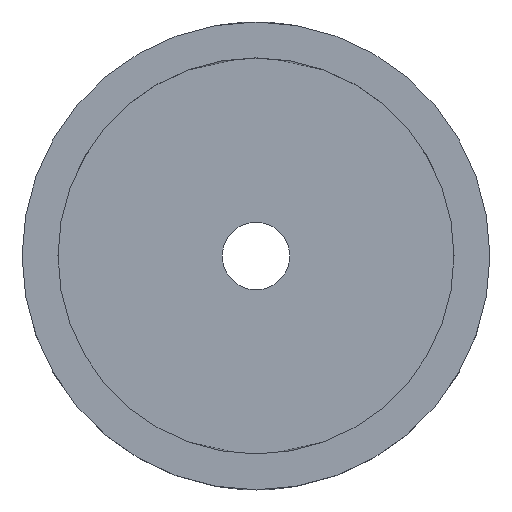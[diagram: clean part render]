
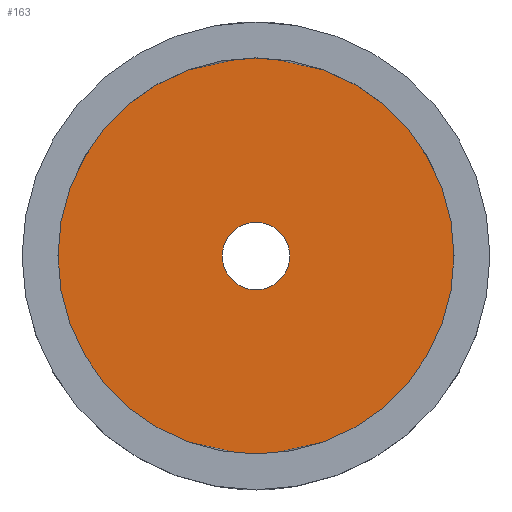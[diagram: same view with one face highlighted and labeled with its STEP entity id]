
A CAD part, top view. The second image highlights one B-rep face of the part: STEP entity #163.
In plain terms, the highlighted planar face has unit normal (0, 0, 1).
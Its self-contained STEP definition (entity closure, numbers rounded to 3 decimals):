
#20=FACE_BOUND('',#51,.T.);
#27=PLANE('',#196);
#42=FACE_OUTER_BOUND('',#50,.T.);
#50=EDGE_LOOP('',(#132));
#51=EDGE_LOOP('',(#133));
#73=CIRCLE('',#193,3.25);
#74=CIRCLE('',#197,19.05);
#81=VERTEX_POINT('',#250);
#91=VERTEX_POINT('',#414);
#97=EDGE_CURVE('',#81,#81,#73,.T.);
#109=EDGE_CURVE('',#91,#91,#74,.T.);
#132=ORIENTED_EDGE('',*,*,#109,.T.);
#133=ORIENTED_EDGE('',*,*,#97,.T.);
#163=ADVANCED_FACE('',(#42,#20),#27,.T.);
#193=AXIS2_PLACEMENT_3D('',#252,#214,#215);
#196=AXIS2_PLACEMENT_3D('',#413,#222,#223);
#197=AXIS2_PLACEMENT_3D('',#415,#224,#225);
#214=DIRECTION('center_axis',(0.,0.,-1.));
#215=DIRECTION('ref_axis',(-1.,0.,0.));
#222=DIRECTION('center_axis',(0.,0.,1.));
#223=DIRECTION('ref_axis',(1.,0.,0.));
#224=DIRECTION('center_axis',(0.,0.,1.));
#225=DIRECTION('ref_axis',(-1.,0.,0.));
#250=CARTESIAN_POINT('',(3.25,0.,0.));
#252=CARTESIAN_POINT('Origin',(0.,0.,0.));
#413=CARTESIAN_POINT('Origin',(0.,0.,0.));
#414=CARTESIAN_POINT('',(19.05,0.,0.));
#415=CARTESIAN_POINT('Origin',(0.,0.,0.));
